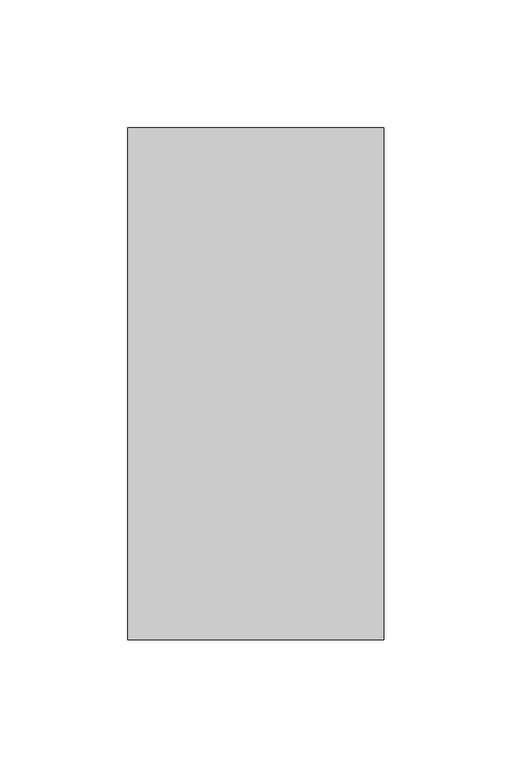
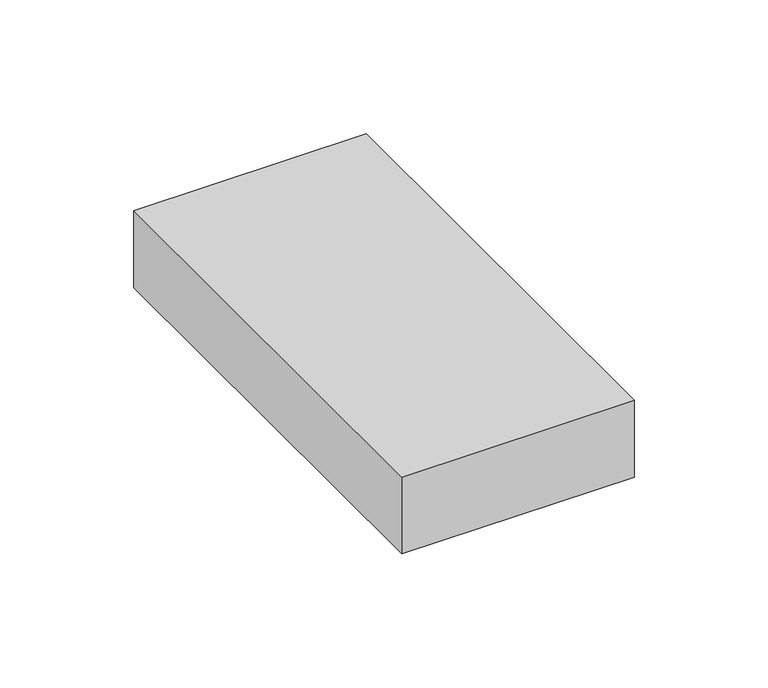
"""IFC4 building model written with IfcOpenShell, lengths in millimetres: furniture geometry, Pixel_Multiple : Pixel_Multiple."""

from ifc_helpers import new_model, si_unit, origin, origin_with_axes, place, context, project, spatial, polyline, outline, extrude, source, transform, mapped, element, save


def furniture_115687b7(model_context):
    return source(origin(), model_context, "Body", "SweptSolid", [
        extrude(outline(polyline([(100.0, 0.0), (0.0, 0.0), (0.0, 200.0), (100.0, 200.0), (100.0, 0.0)])), origin_with_axes(), (0.0, 0.0, 1.0), 35.0),
    ])


if __name__ == "__main__":
    model = new_model("IFC4")
    model_context = context("Model", 3, world=origin())
    ifc_project = project(units=[si_unit("LENGTHUNIT", "METRE", prefix="MILLI")], contexts=[model_context])
    site = spatial("IfcSite", under=ifc_project)
    building = spatial("IfcBuilding", under=site)
    placement = place(None, origin())
    furniture_shape = furniture_115687b7(model_context)
    element("IfcFurniture", 1, ObjectType="Pixel_Multiple : Pixel_Multiple", at=placement, inside=building, context=model_context, shape_type="MappedRepresentation", body=[
        mapped(furniture_shape, transform((0.0, 0.0, 0.0), x_axis=(1.0, 0.0, 0.0), y_axis=(0.0, 1.0, 0.0), z_axis=(0.0, 0.0, 1.0))),
    ])
    save(model, "model.ifc")
